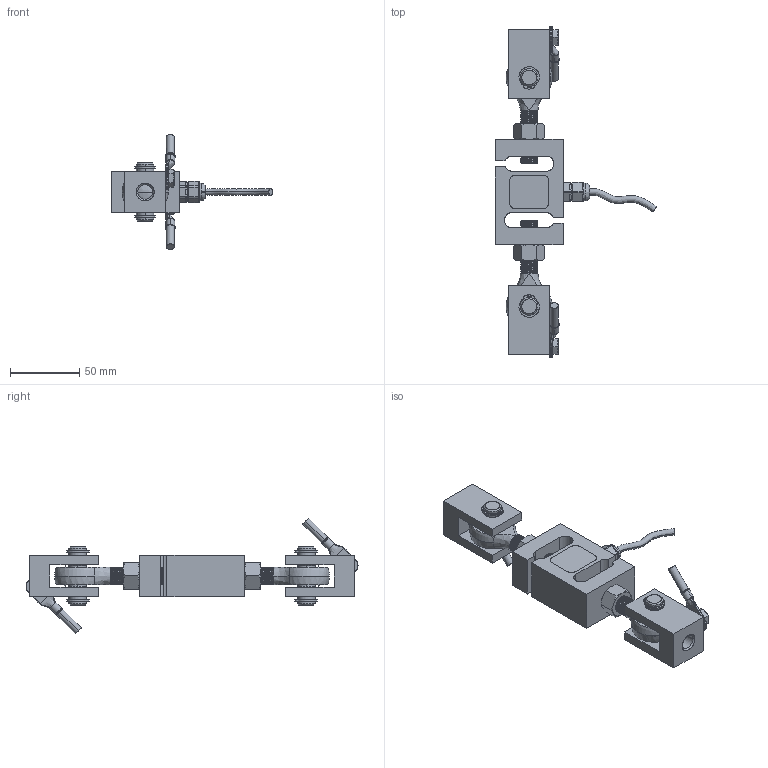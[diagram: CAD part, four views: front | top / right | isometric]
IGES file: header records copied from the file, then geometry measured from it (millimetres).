
Start section: SolidWorks IGES file using analytic representation for surfaces
Global section: file name: C:\Users\nasc01\Desktop\Load_Point_HILPTLB_220LB-2.2KLB\Load_Point_HILPTLB-220LB-2.2KLB_3D\HI LPTLB-220LB-2.2KLB.IGS; native system: SolidWorks 2013; preprocessor: SolidWorks 2013; author: nasc01; date: 141014.121343; units: millimetre
Bounding box: 116.53 x 239.45 x 83.1 mm (x, y, z)
Surface area: 73797.8 mm2 (no closed solid volume)
Topology: 0 solids, 0 shells, 1165 faces, 14332 edges, 14324 vertices
Faces by surface type: revolution 919, bspline 246
